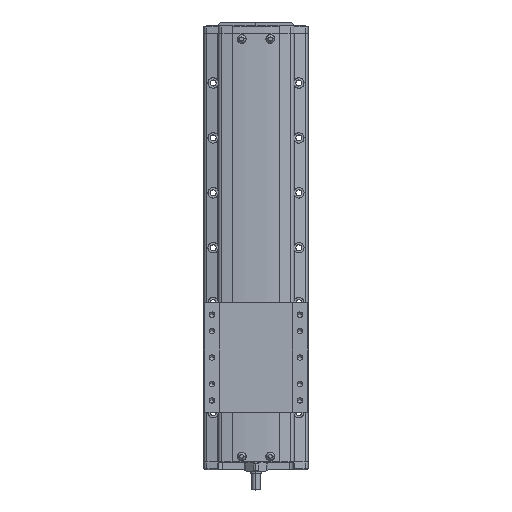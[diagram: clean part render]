
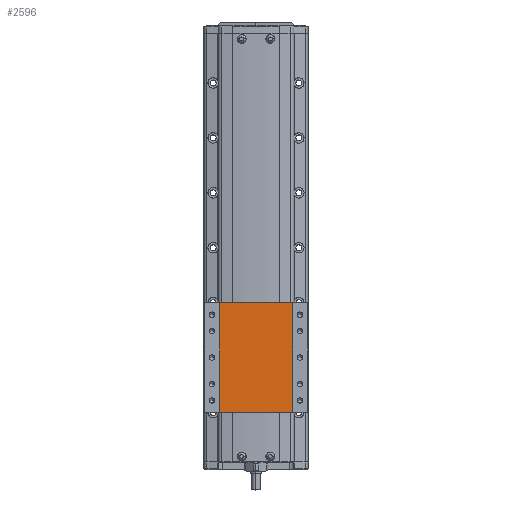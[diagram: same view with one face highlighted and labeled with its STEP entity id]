
A CAD part, top view. The second image highlights one B-rep face of the part: STEP entity #2596.
In plain terms, the highlighted planar face has unit normal (0, 0, 1).
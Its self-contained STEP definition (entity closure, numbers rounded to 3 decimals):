
#2596=ADVANCED_FACE('',(#6538),#6539,.F.);
#6538=FACE_OUTER_BOUND('',#12108,.T.);
#6539=PLANE('',#12109);
#12108=EDGE_LOOP('',(#20956,#20957,#20958,#20959));
#12109=AXIS2_PLACEMENT_3D('',#20960,#20961,#20962);
#20956=ORIENTED_EDGE('',*,*,#35856,.F.);
#20957=ORIENTED_EDGE('',*,*,#35857,.F.);
#20958=ORIENTED_EDGE('',*,*,#34459,.F.);
#20959=ORIENTED_EDGE('',*,*,#35858,.T.);
#20960=CARTESIAN_POINT('',(0.,92.222,30.5));
#20961=DIRECTION('',(0.,0.,-1.0));
#20962=DIRECTION('',(-1.0,0.,0.));
#34459=EDGE_CURVE('',#41083,#41085,#41086,.T.);
#35856=EDGE_CURVE('',#43419,#43420,#43421,.T.);
#35857=EDGE_CURVE('',#41085,#43419,#43422,.T.);
#35858=EDGE_CURVE('',#41083,#43420,#43423,.T.);
#41083=VERTEX_POINT('',#50733);
#41085=VERTEX_POINT('',#50735);
#41086=LINE('',#50736,#50737);
#43419=VERTEX_POINT('',#54131);
#43420=VERTEX_POINT('',#54132);
#43421=LINE('',#54133,#54134);
#43422=LINE('',#54135,#54136);
#43423=LINE('',#54137,#54138);
#50733=CARTESIAN_POINT('',(32.876,92.222,30.5));
#50735=CARTESIAN_POINT('',(-32.876,92.222,30.5));
#50736=CARTESIAN_POINT('',(32.876,92.222,30.5));
#50737=VECTOR('',#64570,10.0);
#54131=CARTESIAN_POINT('',(-32.876,192.222,30.5));
#54132=CARTESIAN_POINT('',(32.876,192.222,30.5));
#54133=CARTESIAN_POINT('',(32.876,192.222,30.5));
#54134=VECTOR('',#66449,10.0);
#54135=CARTESIAN_POINT('',(-32.876,92.222,30.5));
#54136=VECTOR('',#66450,10.0);
#54137=CARTESIAN_POINT('',(32.876,92.222,30.5));
#54138=VECTOR('',#66451,10.0);
#64570=DIRECTION('',(-1.0,0.,0.));
#66449=DIRECTION('',(1.0,0.,0.));
#66450=DIRECTION('',(0.,1.0,0.));
#66451=DIRECTION('',(0.,1.0,0.));
